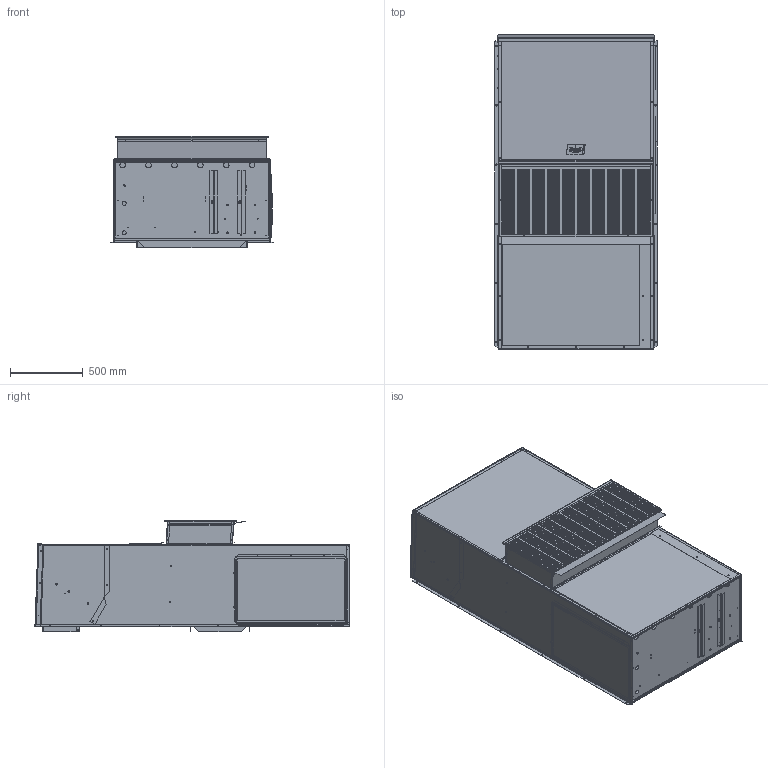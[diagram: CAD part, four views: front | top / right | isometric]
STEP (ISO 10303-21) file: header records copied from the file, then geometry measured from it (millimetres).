
FILE_DESCRIPTION (( 'STEP AP203' ), '1' );
FILE_NAME ('STEP_1000_7.STEP', '2016-06-22T16:00:49', ( '' ), ( '' ), 'SwSTEP 2.0', 'SolidWorks 2016', '' );
FILE_SCHEMA (( 'CONFIG_CONTROL_DESIGN' ));
Length unit declared in the file: inch
Products named in the file (1): STEP_1000_7
Bounding box: 1114.42 x 2156.49 x 768.68 mm (x, y, z)
Volume: 9683899.9 mm3; surface area: 19609886.9 mm2
Topology: 52 solids, 52 shells, 5267 faces, 14621 edges, 9527 vertices
Faces by surface type: plane 3054, cylinder 1308, torus 754, bspline 136, cone 10, sphere 5
Entity records: 204023 total; most frequent: CARTESIAN_POINT 64360, ORIENTED_EDGE 29230, DIRECTION 28159, EDGE_CURVE 14615, LINE 9561, VECTOR 9561, VERTEX_POINT 9527, AXIS2_PLACEMENT_3D 9299
